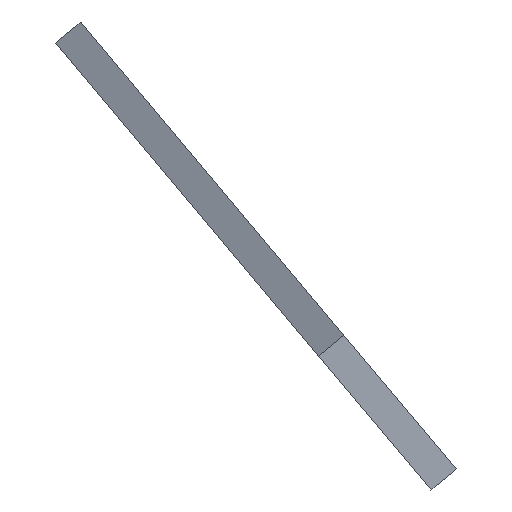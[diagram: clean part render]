
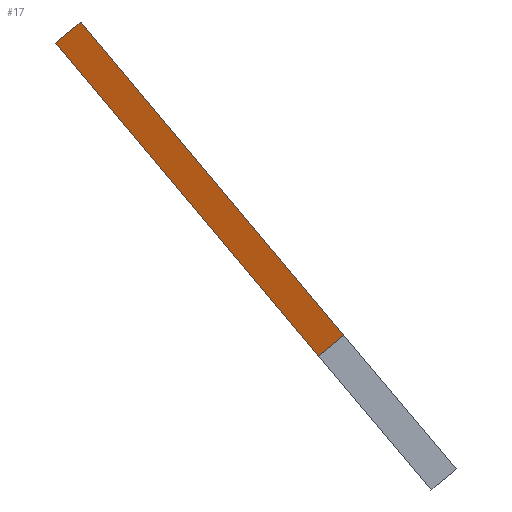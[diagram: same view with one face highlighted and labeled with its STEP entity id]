
A CAD part, left-side view. The second image highlights one B-rep face of the part: STEP entity #17.
In plain terms, the highlighted planar face has unit normal (-0.563, 0.531, 0.633).
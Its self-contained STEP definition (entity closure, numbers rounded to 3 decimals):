
#17 = ADVANCED_FACE('',(#18),#32,.T.);
#18 = FACE_BOUND('',#19,.T.);
#19 = EDGE_LOOP('',(#20,#55,#83,#111));
#20 = ORIENTED_EDGE('',*,*,#21,.T.);
#21 = EDGE_CURVE('',#22,#24,#26,.T.);
#22 = VERTEX_POINT('',#23);
#23 = CARTESIAN_POINT('',(368.,7.53,13.241));
#24 = VERTEX_POINT('',#25);
#25 = CARTESIAN_POINT('',(368.,6.611,14.012));
#26 = SURFACE_CURVE('',#27,(#31,#43),.PCURVE_S1.);
#27 = LINE('',#28,#29);
#28 = CARTESIAN_POINT('',(368.,7.53,13.241));
#29 = VECTOR('',#30,1.);
#30 = DIRECTION('',(0.,-0.766,0.643));
#31 = PCURVE('',#32,#37);
#32 = PLANE('',#33);
#33 = AXIS2_PLACEMENT_3D('',#34,#35,#36);
#34 = CARTESIAN_POINT('',(368.,7.53,13.241));
#35 = DIRECTION('',(-0.563,0.531,0.633));
#36 = DIRECTION('',(0.826,0.362,0.432));
#37 = DEFINITIONAL_REPRESENTATION('',(#38),#42);
#38 = LINE('',#39,#40);
#39 = CARTESIAN_POINT('',(0.,0.));
#40 = VECTOR('',#41,1.);
#41 = DIRECTION('',(0.,-1.));
#42 = ( GEOMETRIC_REPRESENTATION_CONTEXT(2) 
PARAMETRIC_REPRESENTATION_CONTEXT() REPRESENTATION_CONTEXT('2D SPACE',''
  ) );
#43 = PCURVE('',#44,#49);
#44 = PLANE('',#45);
#45 = AXIS2_PLACEMENT_3D('',#46,#47,#48);
#46 = CARTESIAN_POINT('',(532.,7.53,13.241));
#47 = DIRECTION('',(0.,-0.643,-0.766));
#48 = DIRECTION('',(-1.,-0.,0.));
#49 = DEFINITIONAL_REPRESENTATION('',(#50),#54);
#50 = LINE('',#51,#52);
#51 = CARTESIAN_POINT('',(164.,0.));
#52 = VECTOR('',#53,1.);
#53 = DIRECTION('',(0.,-1.));
#54 = ( GEOMETRIC_REPRESENTATION_CONTEXT(2) 
PARAMETRIC_REPRESENTATION_CONTEXT() REPRESENTATION_CONTEXT('2D SPACE',''
  ) );
#55 = ORIENTED_EDGE('',*,*,#56,.T.);
#56 = EDGE_CURVE('',#24,#57,#59,.T.);
#57 = VERTEX_POINT('',#58);
#58 = CARTESIAN_POINT('',(390.,16.253,25.503));
#59 = SURFACE_CURVE('',#60,(#64,#71),.PCURVE_S1.);
#60 = LINE('',#61,#62);
#61 = CARTESIAN_POINT('',(368.,6.611,14.012));
#62 = VECTOR('',#63,1.);
#63 = DIRECTION('',(0.826,0.362,0.432));
#64 = PCURVE('',#32,#65);
#65 = DEFINITIONAL_REPRESENTATION('',(#66),#70);
#66 = LINE('',#67,#68);
#67 = CARTESIAN_POINT('',(0.,-1.2));
#68 = VECTOR('',#69,1.);
#69 = DIRECTION('',(1.,0.));
#70 = ( GEOMETRIC_REPRESENTATION_CONTEXT(2) 
PARAMETRIC_REPRESENTATION_CONTEXT() REPRESENTATION_CONTEXT('2D SPACE',''
  ) );
#71 = PCURVE('',#72,#77);
#72 = PLANE('',#73);
#73 = AXIS2_PLACEMENT_3D('',#74,#75,#76);
#74 = CARTESIAN_POINT('',(450.473,10.92,
    19.148));
#75 = DIRECTION('',(-0.,0.766,-0.643));
#76 = DIRECTION('',(-1.,0.,0.));
#77 = DEFINITIONAL_REPRESENTATION('',(#78),#82);
#78 = LINE('',#79,#80);
#79 = CARTESIAN_POINT('',(82.473,-6.704));
#80 = VECTOR('',#81,1.);
#81 = DIRECTION('',(-0.826,0.563));
#82 = ( GEOMETRIC_REPRESENTATION_CONTEXT(2) 
PARAMETRIC_REPRESENTATION_CONTEXT() REPRESENTATION_CONTEXT('2D SPACE',''
  ) );
#83 = ORIENTED_EDGE('',*,*,#84,.F.);
#84 = EDGE_CURVE('',#85,#57,#87,.T.);
#85 = VERTEX_POINT('',#86);
#86 = CARTESIAN_POINT('',(390.,17.172,24.731));
#87 = SURFACE_CURVE('',#88,(#92,#99),.PCURVE_S1.);
#88 = LINE('',#89,#90);
#89 = CARTESIAN_POINT('',(390.,17.172,24.731));
#90 = VECTOR('',#91,1.);
#91 = DIRECTION('',(0.,-0.766,0.643));
#92 = PCURVE('',#32,#93);
#93 = DEFINITIONAL_REPRESENTATION('',(#94),#98);
#94 = LINE('',#95,#96);
#95 = CARTESIAN_POINT('',(26.627,0.));
#96 = VECTOR('',#97,1.);
#97 = DIRECTION('',(0.,-1.));
#98 = ( GEOMETRIC_REPRESENTATION_CONTEXT(2) 
PARAMETRIC_REPRESENTATION_CONTEXT() REPRESENTATION_CONTEXT('2D SPACE',''
  ) );
#99 = PCURVE('',#100,#105);
#100 = PLANE('',#101);
#101 = AXIS2_PLACEMENT_3D('',#102,#103,#104);
#102 = CARTESIAN_POINT('',(390.,17.172,24.731));
#103 = DIRECTION('',(0.,0.643,0.766));
#104 = DIRECTION('',(1.,0.,-0.));
#105 = DEFINITIONAL_REPRESENTATION('',(#106),#110);
#106 = LINE('',#107,#108);
#107 = CARTESIAN_POINT('',(0.,0.));
#108 = VECTOR('',#109,1.);
#109 = DIRECTION('',(0.,-1.));
#110 = ( GEOMETRIC_REPRESENTATION_CONTEXT(2) 
PARAMETRIC_REPRESENTATION_CONTEXT() REPRESENTATION_CONTEXT('2D SPACE',''
  ) );
#111 = ORIENTED_EDGE('',*,*,#112,.F.);
#112 = EDGE_CURVE('',#22,#85,#113,.T.);
#113 = SURFACE_CURVE('',#114,(#118,#125),.PCURVE_S1.);
#114 = LINE('',#115,#116);
#115 = CARTESIAN_POINT('',(368.,7.53,13.241));
#116 = VECTOR('',#117,1.);
#117 = DIRECTION('',(0.826,0.362,0.432));
#118 = PCURVE('',#32,#119);
#119 = DEFINITIONAL_REPRESENTATION('',(#120),#124);
#120 = LINE('',#121,#122);
#121 = CARTESIAN_POINT('',(0.,0.));
#122 = VECTOR('',#123,1.);
#123 = DIRECTION('',(1.,0.));
#124 = ( GEOMETRIC_REPRESENTATION_CONTEXT(2) 
PARAMETRIC_REPRESENTATION_CONTEXT() REPRESENTATION_CONTEXT('2D SPACE',''
  ) );
#125 = PCURVE('',#126,#131);
#126 = PLANE('',#127);
#127 = AXIS2_PLACEMENT_3D('',#128,#129,#130);
#128 = CARTESIAN_POINT('',(450.473,11.839,
    18.376));
#129 = DIRECTION('',(-0.,0.766,-0.643));
#130 = DIRECTION('',(-1.,0.,0.));
#131 = DEFINITIONAL_REPRESENTATION('',(#132),#136);
#132 = LINE('',#133,#134);
#133 = CARTESIAN_POINT('',(82.473,-6.704));
#134 = VECTOR('',#135,1.);
#135 = DIRECTION('',(-0.826,0.563));
#136 = ( GEOMETRIC_REPRESENTATION_CONTEXT(2) 
PARAMETRIC_REPRESENTATION_CONTEXT() REPRESENTATION_CONTEXT('2D SPACE',''
  ) );
